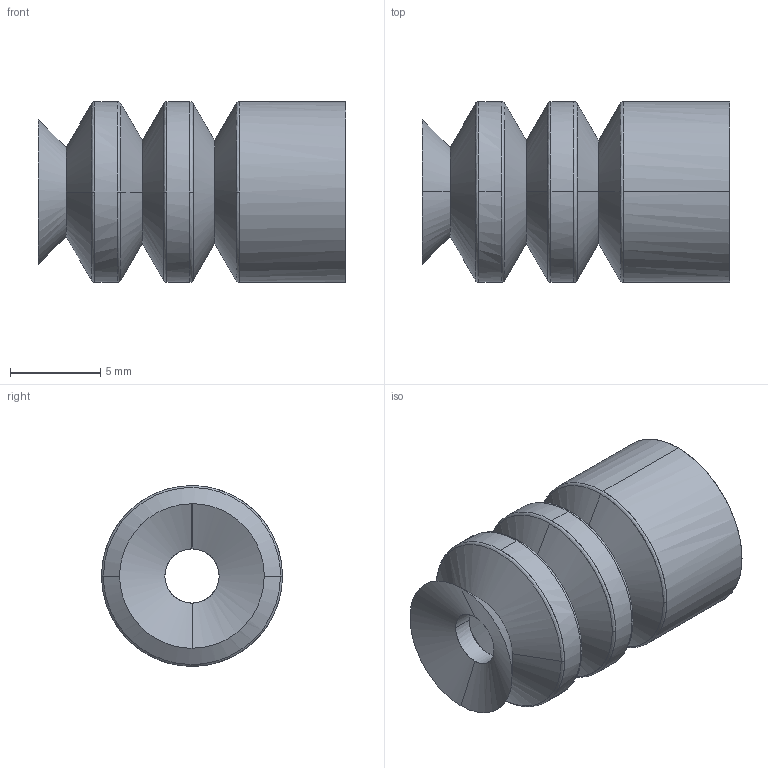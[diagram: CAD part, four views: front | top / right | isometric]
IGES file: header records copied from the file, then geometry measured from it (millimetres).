
Start section: SolidWorks IGES file using analytic representation for surfaces
Global section: file name: C:\Users\STAR081C\Desktop\197514.IGS; native system: SolidWorks 2018; preprocessor: SolidWorks 2018; author: STAR081C; date: 250529.115858; units: millimetre
Bounding box: 17 x 10 x 10 mm (x, y, z)
Surface area: 1165.2 mm2 (no closed solid volume)
Topology: 0 solids, 0 shells, 59 faces, 476 edges, 476 vertices
Faces by surface type: bspline 59
